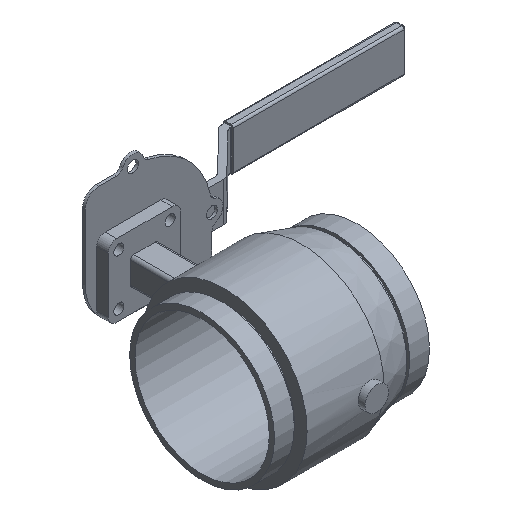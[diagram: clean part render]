
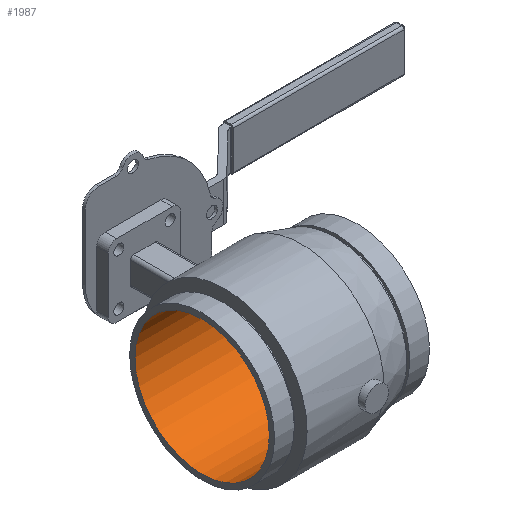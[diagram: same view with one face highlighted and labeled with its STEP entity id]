
A CAD part, isometric view. The second image highlights one B-rep face of the part: STEP entity #1987.
In plain terms, the highlighted cylindrical face has radius 64.77 mm (diameter 129.54 mm), a full revolution.
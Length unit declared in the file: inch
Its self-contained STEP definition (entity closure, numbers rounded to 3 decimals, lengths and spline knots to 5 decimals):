
#152=FACE_OUTER_BOUND('',#270,.T.);
#270=EDGE_LOOP('',(#1405,#1406,#1407,#1408,#1409,#1410));
#411=LINE('',#3249,#562);
#562=VECTOR('',#2573,2.55);
#706=CIRCLE('',#2236,2.55);
#707=CIRCLE('',#2237,2.55);
#708=CIRCLE('',#2238,2.55);
#709=CIRCLE('',#2239,2.55);
#848=VERTEX_POINT('',#3245);
#849=VERTEX_POINT('',#3246);
#850=VERTEX_POINT('',#3248);
#851=VERTEX_POINT('',#3250);
#1056=EDGE_CURVE('',#848,#849,#706,.T.);
#1057=EDGE_CURVE('',#849,#850,#411,.T.);
#1058=EDGE_CURVE('',#851,#850,#707,.T.);
#1059=EDGE_CURVE('',#850,#851,#708,.T.);
#1060=EDGE_CURVE('',#849,#848,#709,.T.);
#1405=ORIENTED_EDGE('',*,*,#1056,.T.);
#1406=ORIENTED_EDGE('',*,*,#1057,.T.);
#1407=ORIENTED_EDGE('',*,*,#1058,.F.);
#1408=ORIENTED_EDGE('',*,*,#1059,.F.);
#1409=ORIENTED_EDGE('',*,*,#1057,.F.);
#1410=ORIENTED_EDGE('',*,*,#1060,.T.);
#1811=CYLINDRICAL_SURFACE('',#2235,2.55);
#1987=ADVANCED_FACE('',(#152),#1811,.F.);
#2235=AXIS2_PLACEMENT_3D('',#3244,#2569,#2570);
#2236=AXIS2_PLACEMENT_3D('',#3247,#2571,#2572);
#2237=AXIS2_PLACEMENT_3D('',#3251,#2574,#2575);
#2238=AXIS2_PLACEMENT_3D('',#3252,#2576,#2577);
#2239=AXIS2_PLACEMENT_3D('',#3253,#2578,#2579);
#2569=DIRECTION('center_axis',(1.,0.,0.));
#2570=DIRECTION('ref_axis',(0.,1.,0.));
#2571=DIRECTION('center_axis',(1.,0.,0.));
#2572=DIRECTION('ref_axis',(0.,0.,-1.));
#2573=DIRECTION('',(-1.,0.,0.));
#2574=DIRECTION('center_axis',(1.,0.,0.));
#2575=DIRECTION('ref_axis',(0.,0.,-1.));
#2576=DIRECTION('center_axis',(1.,0.,0.));
#2577=DIRECTION('ref_axis',(0.,0.,-1.));
#2578=DIRECTION('center_axis',(1.,0.,0.));
#2579=DIRECTION('ref_axis',(0.,0.,-1.));
#3244=CARTESIAN_POINT('Origin',(-0.31,0.,
0.));
#3245=CARTESIAN_POINT('',(2.63,0.,-2.55));
#3246=CARTESIAN_POINT('',(2.63,-2.55,0.));
#3247=CARTESIAN_POINT('Origin',(2.63,0.,0.));
#3248=CARTESIAN_POINT('',(-3.25,-2.55,0.));
#3249=CARTESIAN_POINT('',(-0.31,-2.55,0.));
#3250=CARTESIAN_POINT('',(-3.25,2.55,0.));
#3251=CARTESIAN_POINT('Origin',(-3.25,0.,0.));
#3252=CARTESIAN_POINT('Origin',(-3.25,0.,0.));
#3253=CARTESIAN_POINT('Origin',(2.63,0.,0.));
